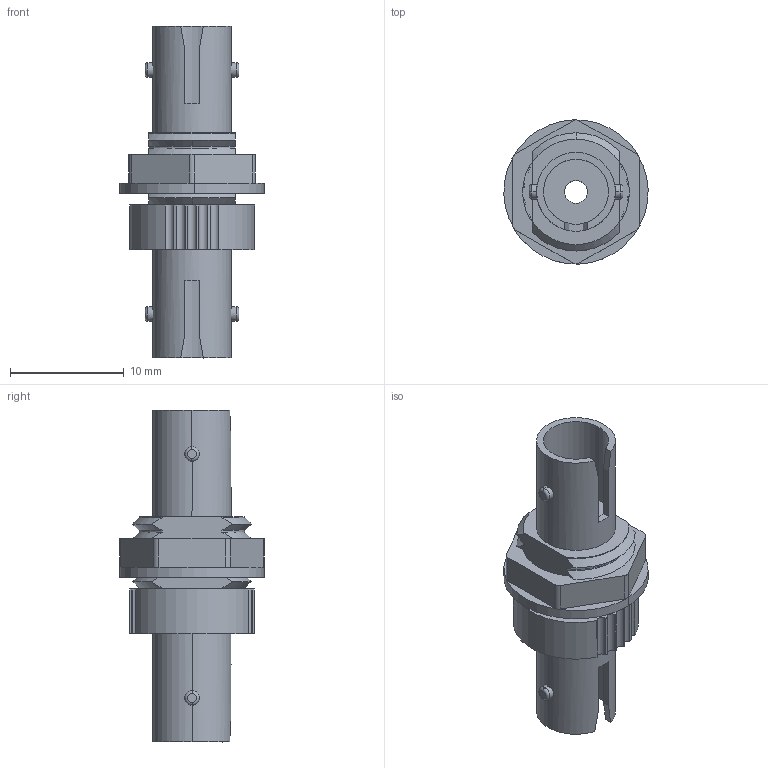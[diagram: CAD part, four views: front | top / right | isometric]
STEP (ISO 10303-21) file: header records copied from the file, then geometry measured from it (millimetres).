
FILE_DESCRIPTION (( 'STEP AP214' ), '1' );
FILE_NAME ('FOA-001A.STEP', '2006-08-02T15:49:13', ( 'L-COM' ), ( 'L-COM' ), 'SwSTEP 2.0', 'SolidWorks 2006004', '' );
FILE_SCHEMA (( 'AUTOMOTIVE_DESIGN' ));
Length unit declared in the file: inch
Products named in the file (4): 3AA02-001; FOA-001A; 3AA03-001
Assembly tree (3 placements, depth 2):
  FOA-001A
    3AA02-001
    3AA03-001
    FOA-001A
Bounding box: 12.69 x 12.69 x 29.21 mm (x, y, z)
Volume: 1191.3 mm3; surface area: 1746.7 mm2
Topology: 3 solids, 3 shells, 217 faces, 608 edges, 400 vertices
Faces by surface type: cylinder 106, plane 73, cone 30, torus 8
Entity records: 8046 total; most frequent: CARTESIAN_POINT 1463, DIRECTION 1256, ORIENTED_EDGE 1216, EDGE_CURVE 608, AXIS2_PLACEMENT_3D 481, VERTEX_POINT 400, LINE 294, VECTOR 294
